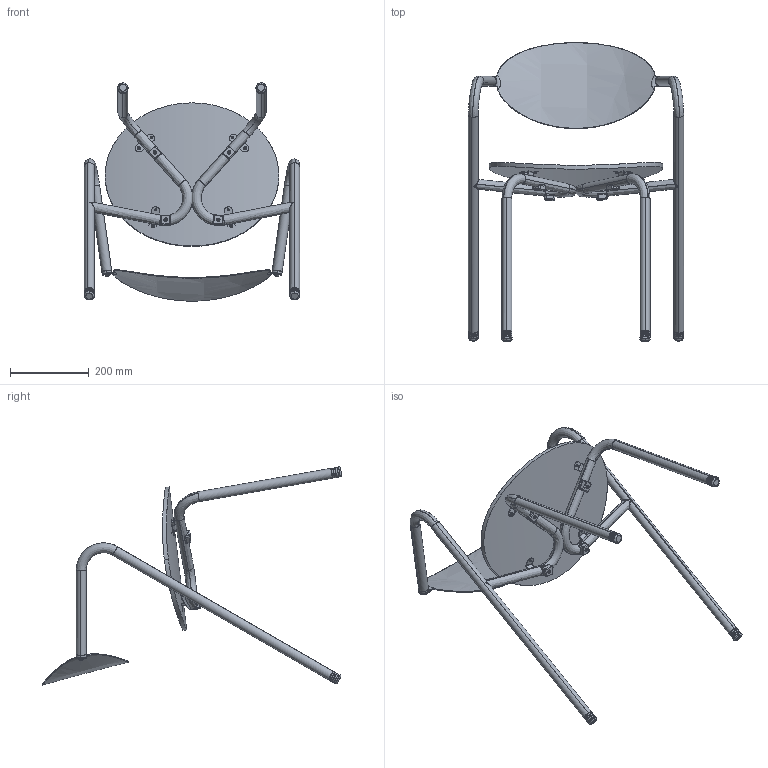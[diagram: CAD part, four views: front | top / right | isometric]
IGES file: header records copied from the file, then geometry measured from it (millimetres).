
Start section: SolidWorks IGES file using analytic representation for surfaces
Global section: file name: E:\ADICO-PC1-ANDRE\ADICO_ANDRE\ADICO_2011\HOTELARIA\OUTDOOR\07_11\Arpa\Arpa_1\para envio EMAIL\3D\Arpa 1_3D.IGS; native system: SolidWorks 2017; preprocessor: SolidWorks 2017; author: andre; date: 170614.095731; units: millimetre
Bounding box: 546 x 757.85 x 552.85 mm (x, y, z)
Surface area: 1042270 mm2 (no closed solid volume)
Topology: 0 solids, 0 shells, 936 faces, 12310 edges, 12289 vertices
Faces by surface type: bspline 540, revolution 396
